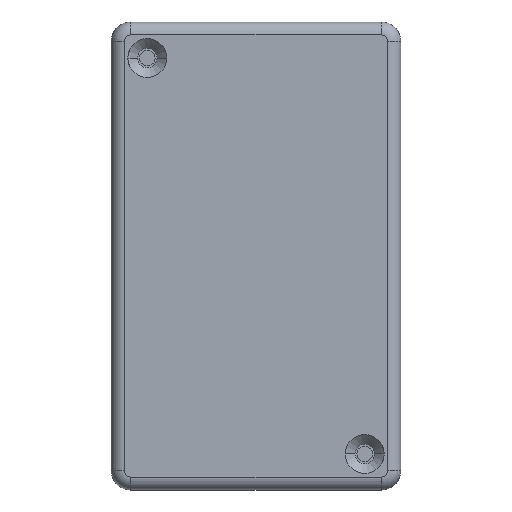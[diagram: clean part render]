
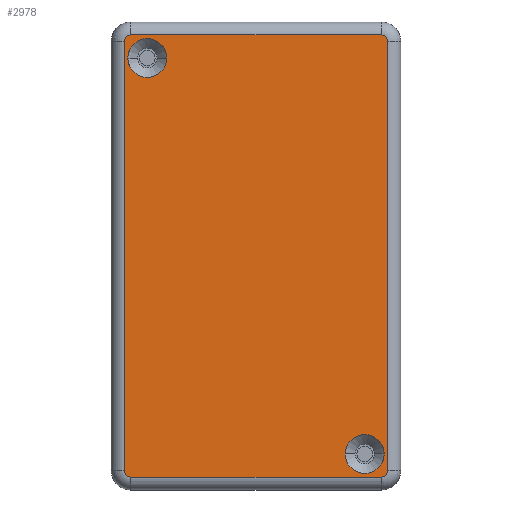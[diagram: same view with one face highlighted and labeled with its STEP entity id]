
A CAD part, front view. The second image highlights one B-rep face of the part: STEP entity #2978.
In plain terms, the highlighted planar face has unit normal (0, -1, 0).
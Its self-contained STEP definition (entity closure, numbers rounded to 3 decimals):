
#75 = EDGE_CURVE ( 'NONE', #1455, #1409, #3069, .T. ) ;
#119 = DIRECTION ( 'NONE',  ( 0., -1., 0. ) ) ;
#203 = AXIS2_PLACEMENT_3D ( 'NONE', #562, #542, #525 ) ;
#216 = CARTESIAN_POINT ( 'NONE',  ( 33.05, -3.05, -20.3 ) ) ;
#235 = CARTESIAN_POINT ( 'NONE',  ( -30.5, -3.05, -19.75 ) ) ;
#263 = DIRECTION ( 'NONE',  ( 0., 0., 1. ) ) ;
#279 = CARTESIAN_POINT ( 'NONE',  ( 34.05, -3.05, -19.3 ) ) ;
#295 = FACE_BOUND ( 'NONE', #412, .T. ) ;
#307 = VERTEX_POINT ( 'NONE', #696 ) ;
#408 = EDGE_LOOP ( 'NONE', ( #3649, #1823, #980, #495, #2061, #3908, #1489, #1770 ) ) ;
#412 = EDGE_LOOP ( 'NONE', ( #2428, #1619 ) ) ;
#447 = VERTEX_POINT ( 'NONE', #216 ) ;
#450 = EDGE_LOOP ( 'NONE', ( #982, #2403 ) ) ;
#495 = ORIENTED_EDGE ( 'NONE', *, *, #75, .T. ) ;
#525 = DIRECTION ( 'NONE',  ( 0., 0., -1. ) ) ;
#542 = DIRECTION ( 'NONE',  ( 0., -1., 0. ) ) ;
#562 = CARTESIAN_POINT ( 'NONE',  ( -30.5, -3.05, -16.75 ) ) ;
#567 = AXIS2_PLACEMENT_3D ( 'NONE', #1504, #1496, #1490 ) ;
#679 = CIRCLE ( 'NONE', #3187, 1. ) ;
#689 = CARTESIAN_POINT ( 'NONE',  ( -34.05, -3.05, -19.3 ) ) ;
#696 = CARTESIAN_POINT ( 'NONE',  ( -34.05, -3.05, 19.3 ) ) ;
#702 = VERTEX_POINT ( 'NONE', #2596 ) ;
#716 = DIRECTION ( 'NONE',  ( 0., 0., -1. ) ) ;
#743 = CIRCLE ( 'NONE', #1661, 1. ) ;
#930 = CARTESIAN_POINT ( 'NONE',  ( 30.5, -3.05, 19.75 ) ) ;
#980 = ORIENTED_EDGE ( 'NONE', *, *, #1602, .T. ) ;
#982 = ORIENTED_EDGE ( 'NONE', *, *, #1336, .F. ) ;
#1048 = DIRECTION ( 'NONE',  ( 0., 0., -1. ) ) ;
#1065 = DIRECTION ( 'NONE',  ( 0., -1., 0. ) ) ;
#1092 = VERTEX_POINT ( 'NONE', #3297 ) ;
#1121 = CARTESIAN_POINT ( 'NONE',  ( 34.05, -3.05, -19.3 ) ) ;
#1282 = CARTESIAN_POINT ( 'NONE',  ( -34.05, -3.05, -19.3 ) ) ;
#1283 = EDGE_CURVE ( 'NONE', #1092, #702, #679, .T. ) ;
#1314 = AXIS2_PLACEMENT_3D ( 'NONE', #1820, #1802, #1784 ) ;
#1320 = EDGE_CURVE ( 'NONE', #2328, #307, #3822, .T. ) ;
#1336 = EDGE_CURVE ( 'NONE', #1911, #1562, #3466, .T. ) ;
#1409 = VERTEX_POINT ( 'NONE', #1501 ) ;
#1455 = VERTEX_POINT ( 'NONE', #1282 ) ;
#1474 = VECTOR ( 'NONE', #3299, 1000. ) ;
#1489 = ORIENTED_EDGE ( 'NONE', *, *, #2912, .T. ) ;
#1490 = DIRECTION ( 'NONE',  ( 0., 0., -1. ) ) ;
#1496 = DIRECTION ( 'NONE',  ( 0., -1., 0. ) ) ;
#1501 = CARTESIAN_POINT ( 'NONE',  ( -33.05, -3.05, -20.3 ) ) ;
#1504 = CARTESIAN_POINT ( 'NONE',  ( -33.05, -3.05, -19.3 ) ) ;
#1540 = LINE ( 'NONE', #279, #2493 ) ;
#1562 = VERTEX_POINT ( 'NONE', #930 ) ;
#1568 = LINE ( 'NONE', #3412, #1474 ) ;
#1579 = VECTOR ( 'NONE', #716, 1000. ) ;
#1602 = EDGE_CURVE ( 'NONE', #307, #1455, #2523, .T. ) ;
#1619 = ORIENTED_EDGE ( 'NONE', *, *, #2730, .F. ) ;
#1661 = AXIS2_PLACEMENT_3D ( 'NONE', #3051, #3037, #3025 ) ;
#1679 = VERTEX_POINT ( 'NONE', #235 ) ;
#1733 = DIRECTION ( 'NONE',  ( 0., 0., -1. ) ) ;
#1742 = DIRECTION ( 'NONE',  ( 0., -1., 0. ) ) ;
#1750 = CARTESIAN_POINT ( 'NONE',  ( 30.5, -3.05, 16.75 ) ) ;
#1770 = ORIENTED_EDGE ( 'NONE', *, *, #1283, .T. ) ;
#1784 = DIRECTION ( 'NONE',  ( 0., 0., -1. ) ) ;
#1802 = DIRECTION ( 'NONE',  ( 0., -1., 0. ) ) ;
#1820 = CARTESIAN_POINT ( 'NONE',  ( -33.05, -3.05, 19.3 ) ) ;
#1823 = ORIENTED_EDGE ( 'NONE', *, *, #1320, .T. ) ;
#1838 = DIRECTION ( 'NONE',  ( 0., -1., 0. ) ) ;
#1911 = VERTEX_POINT ( 'NONE', #3587 ) ;
#1930 = EDGE_CURVE ( 'NONE', #1409, #447, #1568, .T. ) ;
#1992 = DIRECTION ( 'NONE',  ( 0., 0., -1. ) ) ;
#2001 = DIRECTION ( 'NONE',  ( 0., -1., 0. ) ) ;
#2009 = CIRCLE ( 'NONE', #2287, 3. ) ;
#2013 = CARTESIAN_POINT ( 'NONE',  ( 33.05, -3.05, 19.3 ) ) ;
#2061 = ORIENTED_EDGE ( 'NONE', *, *, #1930, .T. ) ;
#2231 = EDGE_CURVE ( 'NONE', #1679, #2748, #3777, .T. ) ;
#2287 = AXIS2_PLACEMENT_3D ( 'NONE', #2465, #1838, #2487 ) ;
#2328 = VERTEX_POINT ( 'NONE', #2657 ) ;
#2395 = LINE ( 'NONE', #3330, #2992 ) ;
#2403 = ORIENTED_EDGE ( 'NONE', *, *, #2530, .F. ) ;
#2408 = AXIS2_PLACEMENT_3D ( 'NONE', #3171, #119, #3109 ) ;
#2428 = ORIENTED_EDGE ( 'NONE', *, *, #2231, .F. ) ;
#2465 = CARTESIAN_POINT ( 'NONE',  ( 30.5, -3.05, 16.75 ) ) ;
#2487 = DIRECTION ( 'NONE',  ( 0., 0., -1. ) ) ;
#2493 = VECTOR ( 'NONE', #263, 1000. ) ;
#2523 = LINE ( 'NONE', #689, #1579 ) ;
#2530 = EDGE_CURVE ( 'NONE', #1562, #1911, #2009, .T. ) ;
#2596 = CARTESIAN_POINT ( 'NONE',  ( 33.05, -3.05, 20.3 ) ) ;
#2657 = CARTESIAN_POINT ( 'NONE',  ( -33.05, -3.05, 20.3 ) ) ;
#2730 = EDGE_CURVE ( 'NONE', #2748, #1679, #2944, .T. ) ;
#2748 = VERTEX_POINT ( 'NONE', #4095 ) ;
#2912 = EDGE_CURVE ( 'NONE', #3392, #1092, #1540, .T. ) ;
#2919 = AXIS2_PLACEMENT_3D ( 'NONE', #2956, #1065, #1048 ) ;
#2944 = CIRCLE ( 'NONE', #2408, 3. ) ;
#2956 = CARTESIAN_POINT ( 'NONE',  ( 33.05, -3.05, -19.3 ) ) ;
#2978 = ADVANCED_FACE ( 'NONE', ( #295, #2990, #3630 ), #3557, .T. ) ;
#2990 = FACE_BOUND ( 'NONE', #450, .T. ) ;
#2992 = VECTOR ( 'NONE', #3901, 1000. ) ;
#3025 = DIRECTION ( 'NONE',  ( 0., 0., -1. ) ) ;
#3037 = DIRECTION ( 'NONE',  ( 0., -1., 0. ) ) ;
#3051 = CARTESIAN_POINT ( 'NONE',  ( 33.05, -3.05, -19.3 ) ) ;
#3069 = CIRCLE ( 'NONE', #567, 1. ) ;
#3109 = DIRECTION ( 'NONE',  ( 0., 0., -1. ) ) ;
#3171 = CARTESIAN_POINT ( 'NONE',  ( -30.5, -3.05, -16.75 ) ) ;
#3187 = AXIS2_PLACEMENT_3D ( 'NONE', #2013, #2001, #1992 ) ;
#3297 = CARTESIAN_POINT ( 'NONE',  ( 34.05, -3.05, 19.3 ) ) ;
#3299 = DIRECTION ( 'NONE',  ( 1., 0., 0. ) ) ;
#3330 = CARTESIAN_POINT ( 'NONE',  ( 33.05, -3.05, 20.3 ) ) ;
#3392 = VERTEX_POINT ( 'NONE', #1121 ) ;
#3412 = CARTESIAN_POINT ( 'NONE',  ( 33.05, -3.05, -20.3 ) ) ;
#3466 = CIRCLE ( 'NONE', #4086, 3. ) ;
#3537 = EDGE_CURVE ( 'NONE', #702, #2328, #2395, .T. ) ;
#3557 = PLANE ( 'NONE',  #2919 ) ;
#3587 = CARTESIAN_POINT ( 'NONE',  ( 30.5, -3.05, 13.75 ) ) ;
#3630 = FACE_OUTER_BOUND ( 'NONE', #408, .T. ) ;
#3649 = ORIENTED_EDGE ( 'NONE', *, *, #3537, .T. ) ;
#3743 = EDGE_CURVE ( 'NONE', #447, #3392, #743, .T. ) ;
#3777 = CIRCLE ( 'NONE', #203, 3. ) ;
#3822 = CIRCLE ( 'NONE', #1314, 1. ) ;
#3901 = DIRECTION ( 'NONE',  ( -1., 0., 0. ) ) ;
#3908 = ORIENTED_EDGE ( 'NONE', *, *, #3743, .T. ) ;
#4086 = AXIS2_PLACEMENT_3D ( 'NONE', #1750, #1742, #1733 ) ;
#4095 = CARTESIAN_POINT ( 'NONE',  ( -30.5, -3.05, -13.75 ) ) ;
